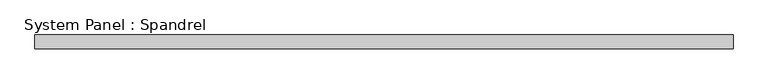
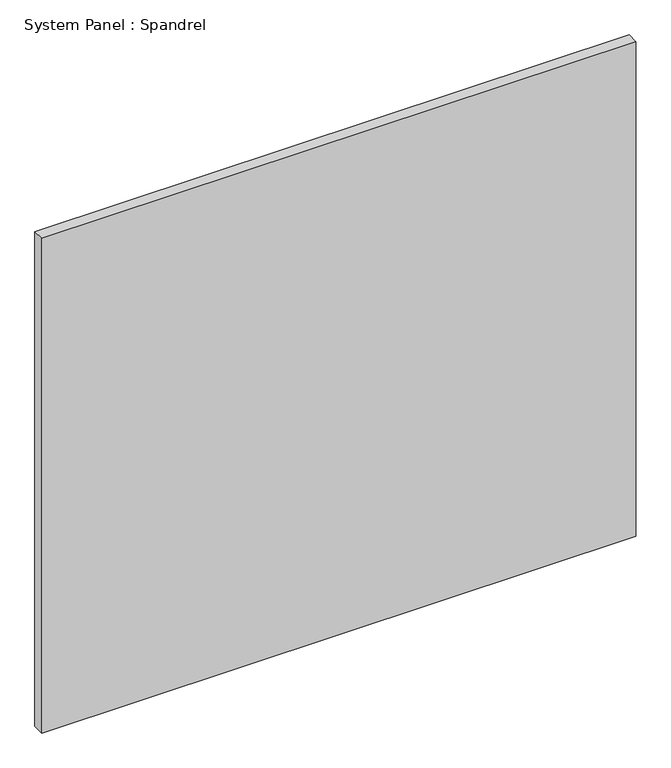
"""IFC4 building model written with IfcOpenShell, lengths in millimetres: plate geometry, System Panel : Spandrel."""

import ifcopenshell
import ifcopenshell.guid

model = None  # the IFC model being written
_history = None  # IfcOwnerHistory: only IFC2X3 demands one
_inside = {}  # id of a spatial element -> (the spatial element, [elements in it])
_under = {}  # id of a project, library or spatial element -> (it, [spatial elements below it])
_declared = {}  # id of a project -> (the project, [libraries it declares])
_typed = {}  # id of a type object -> (the type object, [elements of that type])
_made_of = {}  # id of a material, layer set ... -> (it, [elements and type objects made of it])


def new_model(schema):
    """Start an empty IFC model of exactly this schema.

    Asked for "IFC4X3", IfcOpenShell would pick the latest addendum, in which some entities
    have other attributes; the version numbers below select the first issue.
    IFC2X3 requires an IfcOwnerHistory on every rooted entity: one is made here for all.
    """
    global model, _history
    if schema == "IFC4X3":
        model = ifcopenshell.file(schema_version=(4, 3, 0, 0))
    else:
        model = ifcopenshell.file(schema=schema)
    _inside.clear()
    _under.clear()
    _declared.clear()
    _typed.clear()
    _made_of.clear()
    _history = None
    if model.schema == "IFC2X3":
        org = make("IfcOrganization", Name="unknown")
        user = make(
            "IfcPersonAndOrganization",
            ThePerson=make("IfcPerson", FamilyName="unknown"),
            TheOrganization=org,
        )
        app = make(
            "IfcApplication",
            ApplicationDeveloper=org,
            Version="unknown",
            ApplicationFullName="unknown",
            ApplicationIdentifier="unknown",
        )
        _history = make(
            "IfcOwnerHistory",
            OwningUser=user,
            OwningApplication=app,
            ChangeAction="ADDED",
            CreationDate=0,
        )
    return model


def make(cls, **values):
    """One entity of the class cls with the attributes given. An attribute that is None is left unset."""
    return model.create_entity(
        cls, **{name: value for name, value in values.items() if value is not None}
    )


def rooted(cls, **values):
    """An entity with a GlobalId (a new one), such as an element, a storey or a relation."""
    return make(cls, GlobalId=ifcopenshell.guid.new(), OwnerHistory=_history, **values)


def si_unit(unit_type, name, prefix=None):
    """IfcSIUnit, for example si_unit("LENGTHUNIT", "METRE", prefix="MILLI")."""
    return make("IfcSIUnit", UnitType=unit_type, Prefix=prefix, Name=name)


def assignment(units):
    """IfcUnitAssignment: the units of a project."""
    return None if units is None else make("IfcUnitAssignment", Units=units)


def point(xyz):
    """IfcCartesianPoint."""
    return None if xyz is None else make("IfcCartesianPoint", Coordinates=xyz)


def direction(xyz):
    """IfcDirection."""
    return None if xyz is None else make("IfcDirection", DirectionRatios=xyz)


def frame(location, z_axis=None, x_axis=None):
    """IfcAxis2Placement3D, a coordinate frame: its origin and axes. An axis left out is left unset."""
    return make(
        "IfcAxis2Placement3D",
        Location=point(location),
        Axis=direction(z_axis),
        RefDirection=direction(x_axis),
    )


def origin():
    """The frame at (0, 0, 0) with its axes left unset."""
    return frame((0.0, 0.0, 0.0))


def origin_with_axes():
    """The frame at (0, 0, 0) with the z axis (0, 0, 1) and the x axis (1, 0, 0) written out."""
    return frame((0.0, 0.0, 0.0), z_axis=(0.0, 0.0, 1.0), x_axis=(1.0, 0.0, 0.0))


def place(relative_to, where):
    """IfcLocalPlacement: puts the frame where relative to a parent placement (None: the world)."""
    return make(
        "IfcLocalPlacement", PlacementRelTo=relative_to, RelativePlacement=where
    )


def context(
    kind, dimensions, precision=None, world=None, true_north=None, identifier=None
):
    """IfcGeometricRepresentationContext, for example the 3D "Model" context."""
    return make(
        "IfcGeometricRepresentationContext",
        ContextIdentifier=identifier,
        ContextType=kind,
        CoordinateSpaceDimension=dimensions,
        Precision=precision,
        WorldCoordinateSystem=world,
        TrueNorth=true_north,
    )


def project(units=None, contexts=None):
    """IfcProject with its units and contexts."""
    return rooted(
        "IfcProject",
        Name="project",
        RepresentationContexts=contexts,
        UnitsInContext=assignment(units),
    )


def spatial(cls, under=None, at=None, **own):
    """A site, building, storey or space (cls), placed at a placement, below another one or the project."""
    s = rooted(cls, ObjectPlacement=at, **own)
    if under is not None:
        _under.setdefault(under.id(), (under, []))[1].append(s)
    return s


def polyline(points):
    """IfcPolyline through the points."""
    return make("IfcPolyline", Points=[point(p) for p in points])


def outline(outer, holes=None, kind="AREA"):
    """IfcArbitraryClosedProfileDef: a profile drawn as a closed curve; with holes, ...WithVoids."""
    if holes is None:
        return make("IfcArbitraryClosedProfileDef", ProfileType=kind, OuterCurve=outer)
    return make(
        "IfcArbitraryProfileDefWithVoids",
        ProfileType=kind,
        OuterCurve=outer,
        InnerCurves=holes,
    )


def extrude(swept, where, along, depth):
    """IfcExtrudedAreaSolid: the profile swept, set in the frame where, extruded along a direction by depth."""
    return make(
        "IfcExtrudedAreaSolid",
        SweptArea=swept,
        Position=where,
        ExtrudedDirection=direction(along),
        Depth=depth,
    )


def shape(context_of_items, identifier, shape_type, items):
    """IfcShapeRepresentation: the items that make up one representation, for example the "Body"."""
    return make(
        "IfcShapeRepresentation",
        ContextOfItems=context_of_items,
        RepresentationIdentifier=identifier,
        RepresentationType=shape_type,
        Items=items,
    )


def source(mapping_origin, context_of_items, identifier, shape_type, items):
    """IfcRepresentationMap: a shape defined once, which mapped items show again and again."""
    return make(
        "IfcRepresentationMap",
        MappingOrigin=mapping_origin,
        MappedRepresentation=shape(context_of_items, identifier, shape_type, items),
    )


def transform(
    local_origin,
    x_axis=None,
    y_axis=None,
    z_axis=None,
    scale=None,
    scale2=None,
    scale3=None,
    uniform=True,
):
    """IfcCartesianTransformationOperator3D, or its non-uniform kind. x_axis, y_axis, z_axis: its Axis1, 2, 3."""
    if uniform:
        return make(
            "IfcCartesianTransformationOperator3D",
            Axis1=direction(x_axis),
            Axis2=direction(y_axis),
            LocalOrigin=point(local_origin),
            Scale=scale,
            Axis3=direction(z_axis),
        )
    return make(
        "IfcCartesianTransformationOperator3DnonUniform",
        Axis1=direction(x_axis),
        Axis2=direction(y_axis),
        LocalOrigin=point(local_origin),
        Scale=scale,
        Axis3=direction(z_axis),
        Scale2=scale2,
        Scale3=scale3,
    )


def mapped(mapping_source, mapping_target):
    """IfcMappedItem: shows the shape of a source again, moved by a transform."""
    return make(
        "IfcMappedItem", MappingSource=mapping_source, MappingTarget=mapping_target
    )


def made_of(thing, what):
    """Note that an element or type object is made of a material, layer set ...; save() writes the relation."""
    if what is not None:
        _made_of.setdefault(what.id(), (what, []))[1].append(thing)
    return thing


def element(
    cls,
    number,
    at=None,
    inside=None,
    cuts=None,
    type_object=None,
    material=None,
    context=None,
    identifier="Body",
    shape_type=None,
    held_by="IfcProductDefinitionShape",
    body=None,
    shapes=None,
    **own,
):
    """One element of the class cls, such as IfcWall. Its Tag is "e" and its number.

    at: its placement. inside: the storey or other place that contains it. cuts: it is an
    opening in that element (IfcRelVoidsElement). A single representation is given by context,
    identifier, shape_type and body (its items); several are given by shapes. held_by: the class
    of the entity that holds the representations. save() writes the other relations.
    """
    e = rooted(cls, Tag="e%d" % number, ObjectPlacement=at, **own)
    if body is not None:
        shapes = [shape(context, identifier, shape_type, body)]
    if shapes is not None:
        e.Representation = make(held_by, Representations=shapes)
    if inside is not None:
        _inside.setdefault(inside.id(), (inside, []))[1].append(e)
    if cuts is not None:
        rooted(
            "IfcRelVoidsElement", RelatingBuildingElement=cuts, RelatedOpeningElement=e
        )
    if type_object is not None:
        _typed.setdefault(type_object.id(), (type_object, []))[1].append(e)
    return made_of(e, material)


def aggregate(whole, parts):
    """IfcRelAggregates: a whole, such as a stair, and the parts it consists of."""
    return rooted("IfcRelAggregates", RelatingObject=whole, RelatedObjects=parts)


def save(model, path):
    """Write the relations noted so far, then the file.

    IfcRelAggregates (storeys below a building ...), IfcRelContainedInSpatialStructure (elements
    in a storey), IfcRelDefinesByType, IfcRelAssociatesMaterial and IfcRelDeclares: one each for
    every whole, place, type object, material and project.
    """
    for whole, parts in _under.values():
        aggregate(whole, parts)
    for where, things in _inside.values():
        rooted(
            "IfcRelContainedInSpatialStructure",
            RelatedElements=things,
            RelatingStructure=where,
        )
    for kind, things in _typed.values():
        rooted("IfcRelDefinesByType", RelatedObjects=things, RelatingType=kind)
    for what, things in _made_of.values():
        rooted("IfcRelAssociatesMaterial", RelatedObjects=things, RelatingMaterial=what)
    for by, libraries in _declared.values():
        rooted("IfcRelDeclares", RelatingContext=by, RelatedDefinitions=libraries)
    model.write(path)


def system_panel_spandrel_cd9359be(model_context):
    return source(origin(), model_context, "Body", "SweptSolid", [
        extrude(outline(polyline([(625.0000002, 0.0), (-625.0000002, 0.0), (-625.0000002, 25.0), (625.0000002, 25.0), (625.0000002, 0.0)])), origin_with_axes(), (0.0, 0.0, 1.0), 1100.0),
    ])


if __name__ == "__main__":
    model = new_model("IFC4")
    model_context = context("Model", 3, world=origin())
    ifc_project = project(units=[si_unit("LENGTHUNIT", "METRE", prefix="MILLI")], contexts=[model_context])
    site = spatial("IfcSite", under=ifc_project)
    building = spatial("IfcBuilding", under=site)
    placement = place(None, origin())
    system_panel_spandrel_shape = system_panel_spandrel_cd9359be(model_context)
    element("IfcPlate", 1, ObjectType="System Panel : Spandrel", at=placement, inside=building, context=model_context, shape_type="MappedRepresentation", body=[
        mapped(system_panel_spandrel_shape, transform((0.0, 0.0, 0.0), x_axis=(1.0, 0.0, 0.0), y_axis=(0.0, 1.0, 0.0), z_axis=(0.0, 0.0, 1.0))),
    ])
    save(model, "model.ifc")
